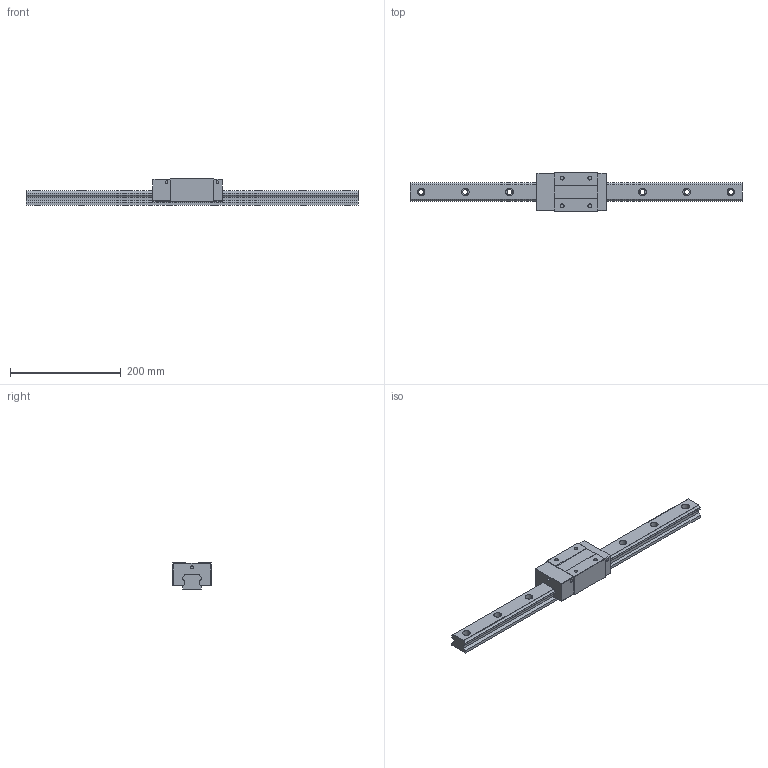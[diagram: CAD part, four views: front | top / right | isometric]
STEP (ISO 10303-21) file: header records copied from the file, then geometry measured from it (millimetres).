
FILE_DESCRIPTION (( 'STEP AP203' ), '1' );
FILE_NAME ('TRS35VN-BN.STEP', '2024-07-12T01:37:42', ( '' ), ( '' ), 'SwSTEP 2.0', 'SolidWorks 2022', '' );
FILE_SCHEMA (( 'CONFIG_CONTROL_DESIGN' ));
Length unit declared in the file: millimetre
Products named in the file (1): TRS35VN-BN
Bounding box: 600 x 70 x 48 mm (x, y, z)
Volume: 724135.2 mm3; surface area: 121060.3 mm2
Topology: 2 solids, 2 shells, 178 faces, 464 edges, 308 vertices
Faces by surface type: plane 90, cylinder 88
Entity records: 5619 total; most frequent: DIRECTION 998, CARTESIAN_POINT 951, ORIENTED_EDGE 928, EDGE_CURVE 464, AXIS2_PLACEMENT_3D 355, VERTEX_POINT 308, LINE 288, VECTOR 288
